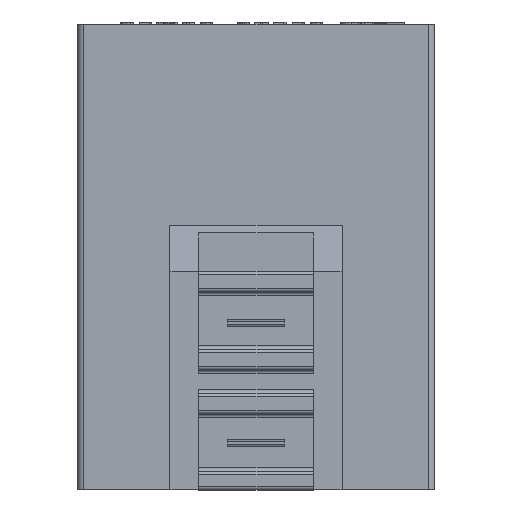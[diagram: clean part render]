
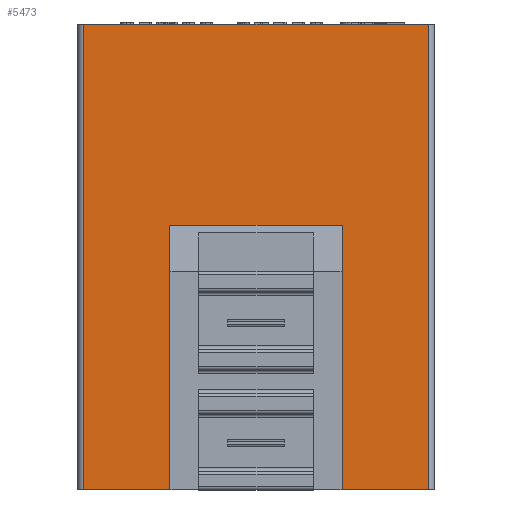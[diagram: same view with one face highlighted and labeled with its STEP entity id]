
A CAD part, front view. The second image highlights one B-rep face of the part: STEP entity #5473.
In plain terms, the highlighted planar face has unit normal (0, -1, 0).
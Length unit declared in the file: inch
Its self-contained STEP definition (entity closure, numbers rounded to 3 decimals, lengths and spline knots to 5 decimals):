
#5165=CARTESIAN_POINT('',(0.74998,-1.055,2.149));
#5166=VERTEX_POINT('',#5165);
#5199=CARTESIAN_POINT('',(-0.74998,-1.055,2.149));
#5200=VERTEX_POINT('',#5199);
#5208=CARTESIAN_POINT('',(0.74998,-1.055,2.149));
#5209=DIRECTION('',(-1.0,0.0,0.0));
#5210=VECTOR('',#5209,1.49996);
#5211=LINE('',#5208,#5210);
#5212=EDGE_CURVE('',#5166,#5200,#5211,.T.);
#5293=CARTESIAN_POINT('',(0.74998,-1.055,0.119));
#5294=VERTEX_POINT('',#5293);
#5302=CARTESIAN_POINT('',(0.375,-1.055,0.119));
#5303=VERTEX_POINT('',#5302);
#5304=CARTESIAN_POINT('',(0.375,-1.055,0.119));
#5305=DIRECTION('',(1.0,0.0,0.0));
#5306=VECTOR('',#5305,0.37498);
#5307=LINE('',#5304,#5306);
#5308=EDGE_CURVE('',#5303,#5294,#5307,.T.);
#5358=CARTESIAN_POINT('',(-0.375,-1.055,0.119));
#5359=VERTEX_POINT('',#5358);
#5366=CARTESIAN_POINT('',(-0.74998,-1.055,0.119));
#5367=VERTEX_POINT('',#5366);
#5368=CARTESIAN_POINT('',(-0.74998,-1.055,0.119));
#5369=DIRECTION('',(1.0,0.0,0.0));
#5370=VECTOR('',#5369,0.37498);
#5371=LINE('',#5368,#5370);
#5372=EDGE_CURVE('',#5367,#5359,#5371,.T.);
#5425=CARTESIAN_POINT('',(0.74998,-1.055,2.149));
#5426=DIRECTION('',(0.0,0.0,-1.0));
#5427=VECTOR('',#5426,2.03);
#5428=LINE('',#5425,#5427);
#5429=EDGE_CURVE('',#5166,#5294,#5428,.T.);
#5434=CARTESIAN_POINT('',(-0.74998,-1.055,2.149));
#5435=DIRECTION('',(0.0,-1.0,0.0));
#5436=DIRECTION('',(0.0,0.0,1.0));
#5437=AXIS2_PLACEMENT_3D('',#5434,#5435,#5436);
#5438=PLANE('',#5437);
#5439=CARTESIAN_POINT('',(0.375,-1.055,1.27404));
#5440=VERTEX_POINT('',#5439);
#5441=CARTESIAN_POINT('',(0.375,-1.055,1.27404));
#5442=DIRECTION('',(0.0,0.0,-1.0));
#5443=VECTOR('',#5442,1.15504);
#5444=LINE('',#5441,#5443);
#5445=EDGE_CURVE('',#5440,#5303,#5444,.T.);
#5446=ORIENTED_EDGE('',*,*,#5445,.T.);
#5447=ORIENTED_EDGE('',*,*,#5308,.T.);
#5448=ORIENTED_EDGE('',*,*,#5429,.F.);
#5449=ORIENTED_EDGE('',*,*,#5212,.T.);
#5450=CARTESIAN_POINT('',(-0.74998,-1.055,2.149));
#5451=DIRECTION('',(0.0,0.0,-1.0));
#5452=VECTOR('',#5451,2.03);
#5453=LINE('',#5450,#5452);
#5454=EDGE_CURVE('',#5200,#5367,#5453,.T.);
#5455=ORIENTED_EDGE('',*,*,#5454,.T.);
#5456=ORIENTED_EDGE('',*,*,#5372,.T.);
#5457=CARTESIAN_POINT('',(-0.375,-1.055,1.27404));
#5458=VERTEX_POINT('',#5457);
#5459=CARTESIAN_POINT('',(-0.375,-1.055,0.119));
#5460=DIRECTION('',(0.0,0.0,1.0));
#5461=VECTOR('',#5460,1.15504);
#5462=LINE('',#5459,#5461);
#5463=EDGE_CURVE('',#5359,#5458,#5462,.T.);
#5464=ORIENTED_EDGE('',*,*,#5463,.T.);
#5465=CARTESIAN_POINT('',(-0.375,-1.055,1.27404));
#5466=DIRECTION('',(1.0,0.0,0.0));
#5467=VECTOR('',#5466,0.75);
#5468=LINE('',#5465,#5467);
#5469=EDGE_CURVE('',#5458,#5440,#5468,.T.);
#5470=ORIENTED_EDGE('',*,*,#5469,.T.);
#5471=EDGE_LOOP('',(#5446,#5447,#5448,#5449,#5455,#5456,#5464,#5470));
#5472=FACE_OUTER_BOUND('',#5471,.T.);
#5473=ADVANCED_FACE('',(#5472),#5438,.T.);
